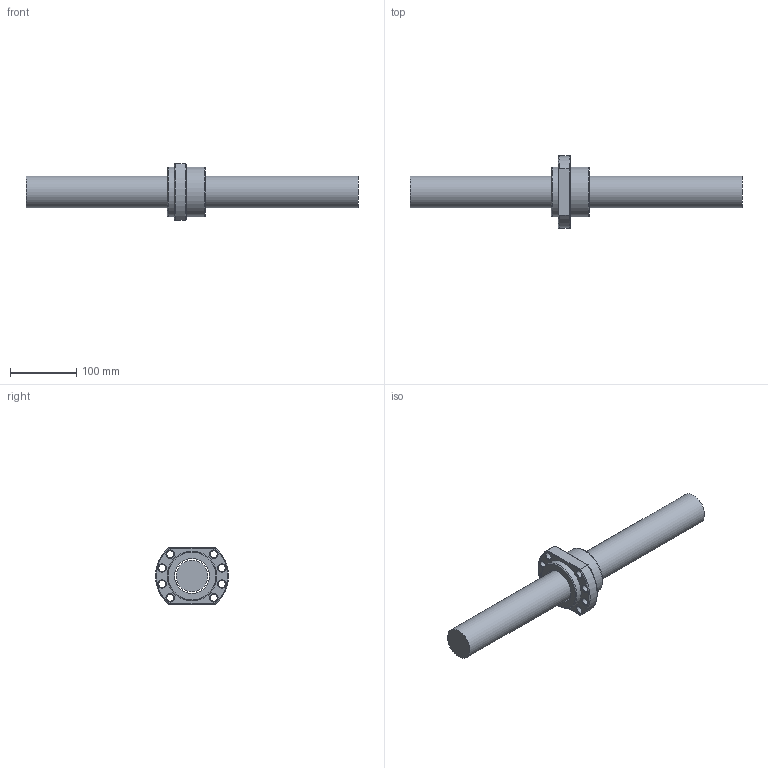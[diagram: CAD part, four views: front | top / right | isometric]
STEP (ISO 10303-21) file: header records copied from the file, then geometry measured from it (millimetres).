
FILE_DESCRIPTION (( 'STEP AP203' ), '1' );
FILE_NAME ('SFA5010-3.8.step', '2024-05-07T07:26:20', ( '' ), ( '' ), 'SwSTEP 2.0', 'SolidWorks 2022', '' );
FILE_SCHEMA (( 'CONFIG_CONTROL_DESIGN' ));
Length unit declared in the file: millimetre
Products named in the file (1): SFA5010-3.8
Bounding box: 500 x 109.65 x 85 mm (x, y, z)
Volume: 1089337.4 mm3; surface area: 118836.8 mm2
Topology: 2 solids, 2 shells, 63 faces, 152 edges, 95 vertices
Faces by surface type: cylinder 22, cone 17, plane 13, torus 6, bspline 5
Full cylindrical faces by diameter (mm): 2.5 x1, 7 x6, 11 x8, 48 x1, 52.3 x1, 75 x2
Entity records: 3393 total; most frequent: CARTESIAN_POINT 2180, DIRECTION 226, ORIENTED_EDGE 188, EDGE_LOOP 112, AXIS2_PLACEMENT_3D 105, EDGE_CURVE 94, VERTEX_POINT 78, FACE_OUTER_BOUND 73
